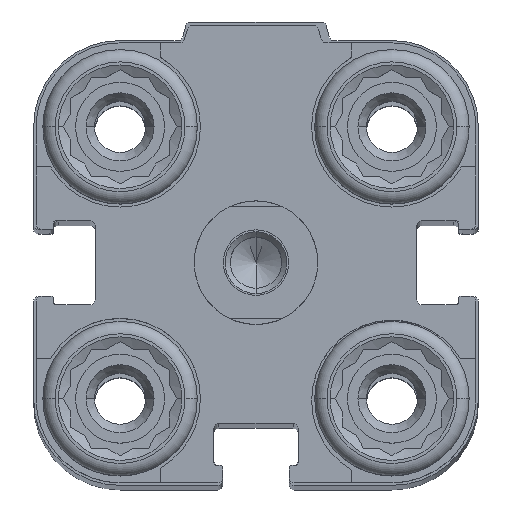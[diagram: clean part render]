
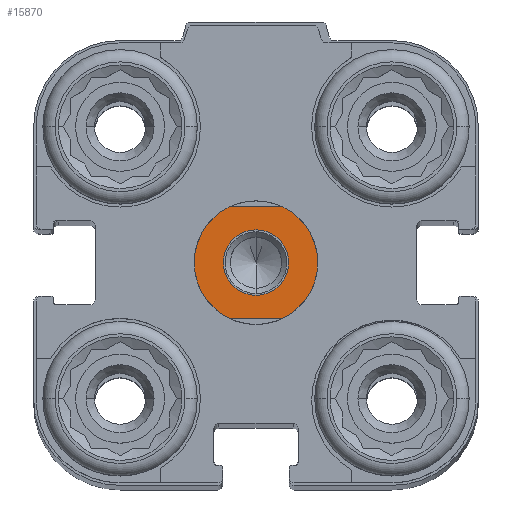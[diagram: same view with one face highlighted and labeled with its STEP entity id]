
A CAD part, top view. The second image highlights one B-rep face of the part: STEP entity #15870.
In plain terms, the highlighted planar face has unit normal (0, 0, 1).
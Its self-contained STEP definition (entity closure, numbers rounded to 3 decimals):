
#430 = EDGE_CURVE ( 'NONE', #16140, #1921, #18337, .T. ) ;
#524 = AXIS2_PLACEMENT_3D ( 'NONE', #18095, #9661, #2162 ) ;
#694 = AXIS2_PLACEMENT_3D ( 'NONE', #11208, #5392, #8062 ) ;
#699 = VERTEX_POINT ( 'NONE', #13729 ) ;
#1749 = DIRECTION ( 'NONE',  ( 0., 1., 0. ) ) ;
#1921 = VERTEX_POINT ( 'NONE', #12106 ) ;
#2162 = DIRECTION ( 'NONE',  ( 0., 1., 0. ) ) ;
#2257 = EDGE_CURVE ( 'NONE', #13607, #16140, #15529, .T. ) ;
#2322 = CARTESIAN_POINT ( 'NONE',  ( 9., -4.5, 4.5 ) ) ;
#2535 = AXIS2_PLACEMENT_3D ( 'NONE', #15282, #16531, #13854 ) ;
#2825 = CARTESIAN_POINT ( 'NONE',  ( 0., 0., 4.5 ) ) ;
#3045 = AXIS2_PLACEMENT_3D ( 'NONE', #3958, #14163, #8610 ) ;
#3408 = ORIENTED_EDGE ( 'NONE', *, *, #15984, .F. ) ;
#3429 = CARTESIAN_POINT ( 'NONE',  ( 0., 0., 4.5 ) ) ;
#3874 = VERTEX_POINT ( 'NONE', #14256 ) ;
#3958 = CARTESIAN_POINT ( 'NONE',  ( 0., 0., 4.5 ) ) ;
#4013 = DIRECTION ( 'NONE',  ( 1., 0., 0. ) ) ;
#4176 = ORIENTED_EDGE ( 'NONE', *, *, #16715, .F. ) ;
#4453 = VERTEX_POINT ( 'NONE', #4662 ) ;
#4662 = CARTESIAN_POINT ( 'NONE',  ( 0., -2.65, 4.5 ) ) ;
#5037 = DIRECTION ( 'NONE',  ( -1., 0., 0. ) ) ;
#5277 = CIRCLE ( 'NONE', #2535, 5. ) ;
#5392 = DIRECTION ( 'NONE',  ( 0., 0., -1. ) ) ;
#5621 = ORIENTED_EDGE ( 'NONE', *, *, #430, .F. ) ;
#5795 = EDGE_CURVE ( 'NONE', #3874, #4453, #6463, .T. ) ;
#6168 = AXIS2_PLACEMENT_3D ( 'NONE', #16523, #9162, #1749 ) ;
#6261 = VERTEX_POINT ( 'NONE', #14392 ) ;
#6463 = CIRCLE ( 'NONE', #6168, 2.65 ) ;
#6547 = FACE_OUTER_BOUND ( 'NONE', #16522, .T. ) ;
#6980 = EDGE_CURVE ( 'NONE', #4453, #3874, #8704, .T. ) ;
#7006 = DIRECTION ( 'NONE',  ( -1., 0., 0. ) ) ;
#7838 = DIRECTION ( 'NONE',  ( -1., 0., 0. ) ) ;
#7856 = CARTESIAN_POINT ( 'NONE',  ( -5., 0., 4.5 ) ) ;
#8027 = EDGE_LOOP ( 'NONE', ( #12325, #17560 ) ) ;
#8062 = DIRECTION ( 'NONE',  ( 0., 1., 0. ) ) ;
#8077 = ORIENTED_EDGE ( 'NONE', *, *, #2257, .F. ) ;
#8188 = VECTOR ( 'NONE', #7838, 1000. ) ;
#8348 = DIRECTION ( 'NONE',  ( 0., 0., -1. ) ) ;
#8610 = DIRECTION ( 'NONE',  ( -1., 0., 0. ) ) ;
#8617 = EDGE_CURVE ( 'NONE', #6261, #18535, #9643, .T. ) ;
#8704 = CIRCLE ( 'NONE', #524, 2.65 ) ;
#9162 = DIRECTION ( 'NONE',  ( 0., 0., -1. ) ) ;
#9398 = PLANE ( 'NONE',  #694 ) ;
#9643 = LINE ( 'NONE', #2322, #8188 ) ;
#9661 = DIRECTION ( 'NONE',  ( 0., 0., -1. ) ) ;
#10662 = CIRCLE ( 'NONE', #13717, 5. ) ;
#11029 = CIRCLE ( 'NONE', #13777, 5. ) ;
#11208 = CARTESIAN_POINT ( 'NONE',  ( 0., 0., 4.5 ) ) ;
#12106 = CARTESIAN_POINT ( 'NONE',  ( 2.179, 4.5, 4.5 ) ) ;
#12325 = ORIENTED_EDGE ( 'NONE', *, *, #5795, .T. ) ;
#12961 = ORIENTED_EDGE ( 'NONE', *, *, #8617, .F. ) ;
#13607 = VERTEX_POINT ( 'NONE', #7856 ) ;
#13717 = AXIS2_PLACEMENT_3D ( 'NONE', #3429, #15066, #5037 ) ;
#13729 = CARTESIAN_POINT ( 'NONE',  ( 5., 0., 4.5 ) ) ;
#13777 = AXIS2_PLACEMENT_3D ( 'NONE', #2825, #8348, #7006 ) ;
#13842 = ORIENTED_EDGE ( 'NONE', *, *, #18634, .F. ) ;
#13854 = DIRECTION ( 'NONE',  ( -1., 0., 0. ) ) ;
#14163 = DIRECTION ( 'NONE',  ( 0., 0., -1. ) ) ;
#14256 = CARTESIAN_POINT ( 'NONE',  ( 0., 2.65, 4.5 ) ) ;
#14392 = CARTESIAN_POINT ( 'NONE',  ( 2.179, -4.5, 4.5 ) ) ;
#14735 = CARTESIAN_POINT ( 'NONE',  ( -2.179, 4.5, 4.5 ) ) ;
#15066 = DIRECTION ( 'NONE',  ( 0., 0., -1. ) ) ;
#15070 = VECTOR ( 'NONE', #4013, 1000. ) ;
#15282 = CARTESIAN_POINT ( 'NONE',  ( 0., 0., 4.5 ) ) ;
#15529 = CIRCLE ( 'NONE', #3045, 5. ) ;
#15870 = ADVANCED_FACE ( 'NONE', ( #6547, #17051 ), #9398, .F. ) ;
#15984 = EDGE_CURVE ( 'NONE', #1921, #699, #11029, .T. ) ;
#16140 = VERTEX_POINT ( 'NONE', #14735 ) ;
#16522 = EDGE_LOOP ( 'NONE', ( #5621, #8077, #13842, #12961, #4176, #3408 ) ) ;
#16523 = CARTESIAN_POINT ( 'NONE',  ( 0., 0., 4.5 ) ) ;
#16531 = DIRECTION ( 'NONE',  ( 0., 0., -1. ) ) ;
#16715 = EDGE_CURVE ( 'NONE', #699, #6261, #5277, .T. ) ;
#17051 = FACE_BOUND ( 'NONE', #8027, .T. ) ;
#17560 = ORIENTED_EDGE ( 'NONE', *, *, #6980, .T. ) ;
#17652 = CARTESIAN_POINT ( 'NONE',  ( -2.179, -4.5, 4.5 ) ) ;
#18095 = CARTESIAN_POINT ( 'NONE',  ( 0., 0., 4.5 ) ) ;
#18337 = LINE ( 'NONE', #18709, #15070 ) ;
#18535 = VERTEX_POINT ( 'NONE', #17652 ) ;
#18634 = EDGE_CURVE ( 'NONE', #18535, #13607, #10662, .T. ) ;
#18709 = CARTESIAN_POINT ( 'NONE',  ( -9., 4.5, 4.5 ) ) ;
